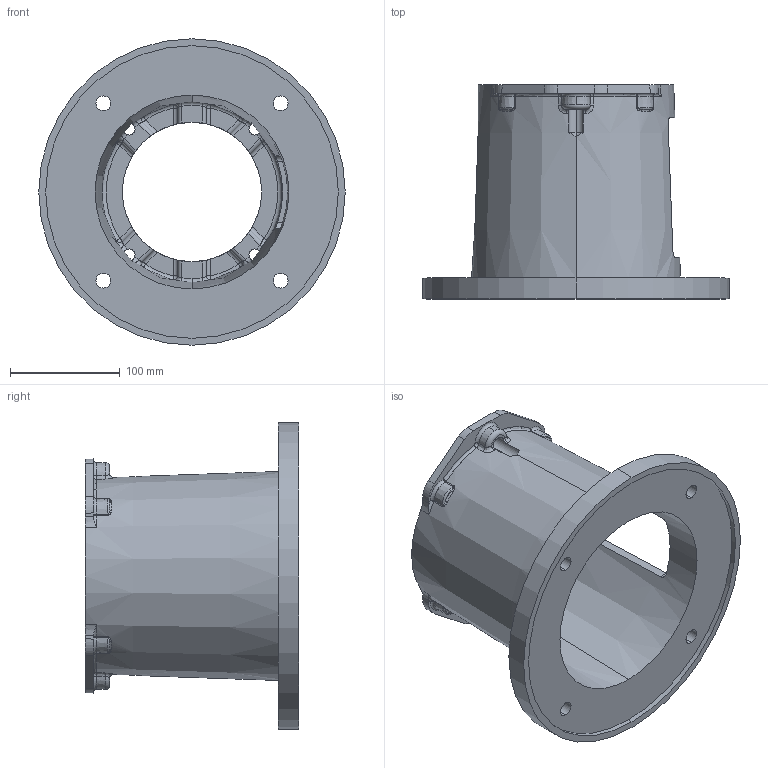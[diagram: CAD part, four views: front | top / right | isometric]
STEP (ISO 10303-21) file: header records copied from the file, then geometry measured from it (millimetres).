
FILE_DESCRIPTION (( 'STEP AP203' ), '1' );
FILE_NAME ('M284752C.STEP', '2007-12-21T21:05:18', ( 'Chris McCoy' ), ( 'Magnaloy Coupling Co' ), 'SwSTEP 2.0', 'SolidWorks 2007', '' );
FILE_SCHEMA (( 'CONFIG_CONTROL_DESIGN' ));
Length unit declared in the file: inch
Products named in the file (1): M284752C
Bounding box: 279.4 x 195.07 x 279.4 mm (x, y, z)
Volume: 1349282.6 mm3; surface area: 316644.3 mm2
Topology: 1 solids, 1 shells, 322 faces, 862 edges, 514 vertices
Faces by surface type: cylinder 86, torus 76, bspline 64, plane 50, sphere 24, cone 22
Entity records: 14133 total; most frequent: CARTESIAN_POINT 6711, ORIENTED_EDGE 1676, DIRECTION 1440, EDGE_CURVE 838, AXIS2_PLACEMENT_3D 643, VERTEX_POINT 514, CIRCLE 384, EDGE_LOOP 342
